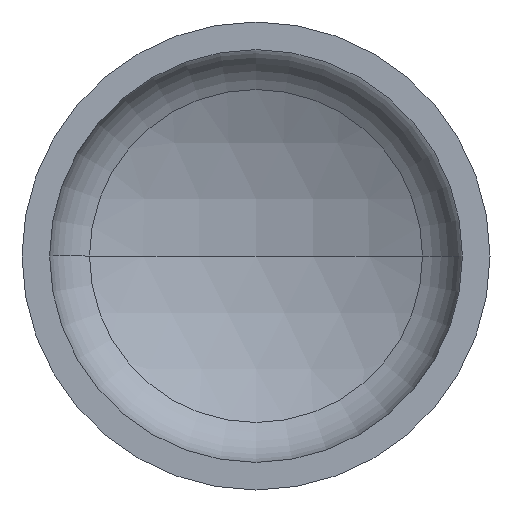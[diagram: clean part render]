
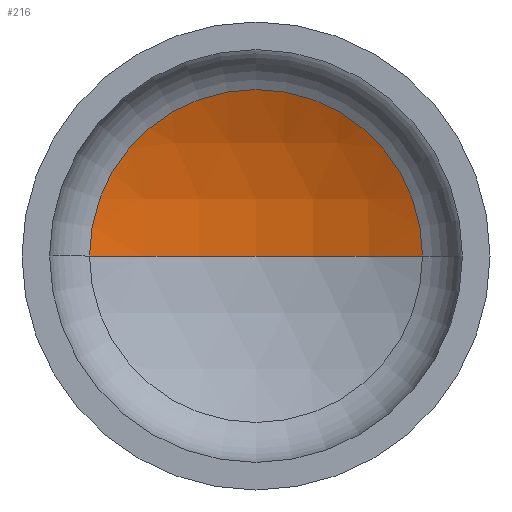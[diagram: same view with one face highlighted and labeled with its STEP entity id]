
A CAD part, front view. The second image highlights one B-rep face of the part: STEP entity #216.
In plain terms, the highlighted spherical face has radius 406 mm.
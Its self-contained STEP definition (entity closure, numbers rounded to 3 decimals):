
#6 = AXIS2_PLACEMENT_3D ( 'NONE', #166, #372, #199 ) ;
#9 = AXIS2_PLACEMENT_3D ( 'NONE', #73, #282, #105 ) ;
#18 = AXIS2_PLACEMENT_3D ( 'NONE', #122, #149, #187 ) ;
#23 = VERTEX_POINT ( 'NONE', #192 ) ;
#73 = CARTESIAN_POINT ( 'NONE',  ( 0., -203.714, 0. ) ) ;
#105 = DIRECTION ( 'NONE',  ( -1., 0., 0. ) ) ;
#122 = CARTESIAN_POINT ( 'NONE',  ( 0., -203.714, 0. ) ) ;
#134 = CARTESIAN_POINT ( 'NONE',  ( -180.72, 159.847, 0. ) ) ;
#149 = DIRECTION ( 'NONE',  ( 0., 0., -1. ) ) ;
#166 = CARTESIAN_POINT ( 'NONE',  ( 0., -203.714, 0. ) ) ;
#169 = ORIENTED_EDGE ( 'NONE', *, *, #300, .T. ) ;
#170 = CARTESIAN_POINT ( 'NONE',  ( 0., 159.847, 0. ) ) ;
#171 = CARTESIAN_POINT ( 'NONE',  ( 180.72, 159.847, 0. ) ) ;
#181 = ORIENTED_EDGE ( 'NONE', *, *, #303, .F. ) ;
#187 = DIRECTION ( 'NONE',  ( -1., 0., 0. ) ) ;
#192 = CARTESIAN_POINT ( 'NONE',  ( 0., 202.286, 0. ) ) ;
#199 = DIRECTION ( 'NONE',  ( 1., 0., 0. ) ) ;
#201 = DIRECTION ( 'NONE',  ( 1., 0., 0. ) ) ;
#213 = EDGE_LOOP ( 'NONE', ( #181, #169, #248 ) ) ;
#216 = ADVANCED_FACE ( 'NONE', ( #265 ), #352, .F. ) ;
#238 = CIRCLE ( 'NONE', #351, 180.72 ) ;
#248 = ORIENTED_EDGE ( 'NONE', *, *, #322, .T. ) ;
#265 = FACE_OUTER_BOUND ( 'NONE', #213, .T. ) ;
#282 = DIRECTION ( 'NONE',  ( 0., 0., -1. ) ) ;
#300 = EDGE_CURVE ( 'NONE', #23, #344, #402, .T. ) ;
#303 = EDGE_CURVE ( 'NONE', #23, #334, #335, .T. ) ;
#322 = EDGE_CURVE ( 'NONE', #344, #334, #238, .T. ) ;
#334 = VERTEX_POINT ( 'NONE', #134 ) ;
#335 = CIRCLE ( 'NONE', #6, 406. ) ;
#344 = VERTEX_POINT ( 'NONE', #171 ) ;
#351 = AXIS2_PLACEMENT_3D ( 'NONE', #170, #374, #201 ) ;
#352 = SPHERICAL_SURFACE ( 'NONE', #18, 406. ) ;
#372 = DIRECTION ( 'NONE',  ( 0., 0., 1. ) ) ;
#374 = DIRECTION ( 'NONE',  ( 0., -1., 0. ) ) ;
#402 = CIRCLE ( 'NONE', #9, 406. ) ;
